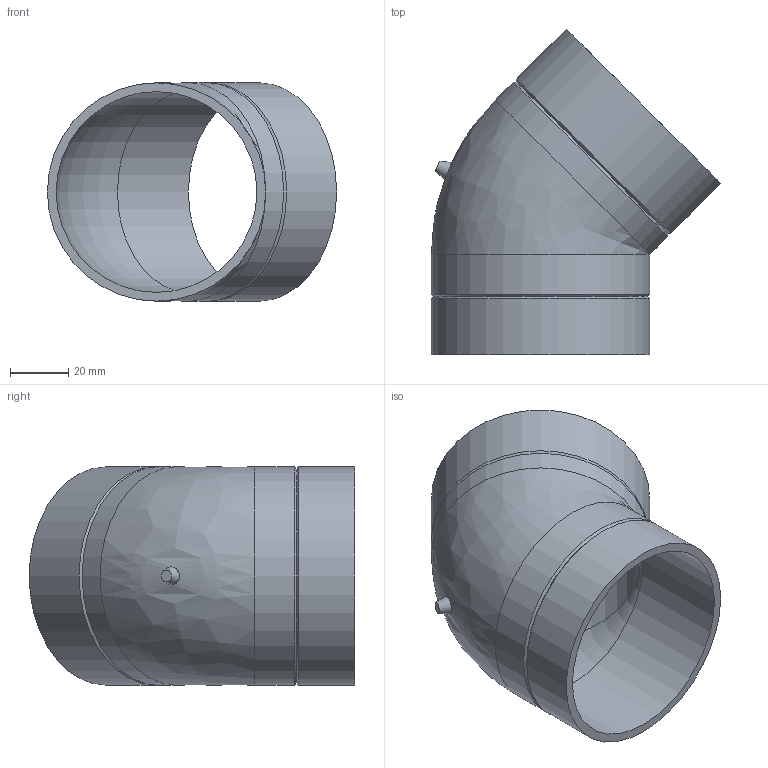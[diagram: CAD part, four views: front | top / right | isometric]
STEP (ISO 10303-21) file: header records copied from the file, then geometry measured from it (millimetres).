
FILE_DESCRIPTION(/* description */ (''),/* implementation_level */ '2;1');
FILE_NAME(/* name */ 'Z:\Geberit\Export\NewStep\PE Bogen Einzelteil_Ipart\stp\365045.stp',/* time_stamp */ '2014-04-02T11:56:34+02:00',/* author */ ('bruh'),/* organization */ (''),/* preprocessor_version */ 'ST-DEVELOPER v15.2',/* originating_system */ 'Autodesk Inventor 2014',/* authorisation */ '');
FILE_SCHEMA (('AUTOMOTIVE_DESIGN { 1 0 10303 214 3 1 1 }'));
Length unit declared in the file: millimetre
Products named in the file (1): 365045
Bounding box: 99.37 x 111.87 x 75 mm (x, y, z)
Volume: 66814.9 mm3; surface area: 46217.1 mm2
Topology: 1 solids, 1 shells, 16 faces, 32 edges, 17 vertices
Faces by surface type: cylinder 6, cone 5, plane 3, torus 1, bspline 1
Full cylindrical faces by diameter (mm): 69 x2, 75 x4
Entity records: 475 total; most frequent: CARTESIAN_POINT 169, DIRECTION 62, ORIENTED_EDGE 32, EDGE_LOOP 31, AXIS2_PLACEMENT_3D 31, FACE_BOUND 18, STYLED_ITEM 17, EDGE_CURVE 16
